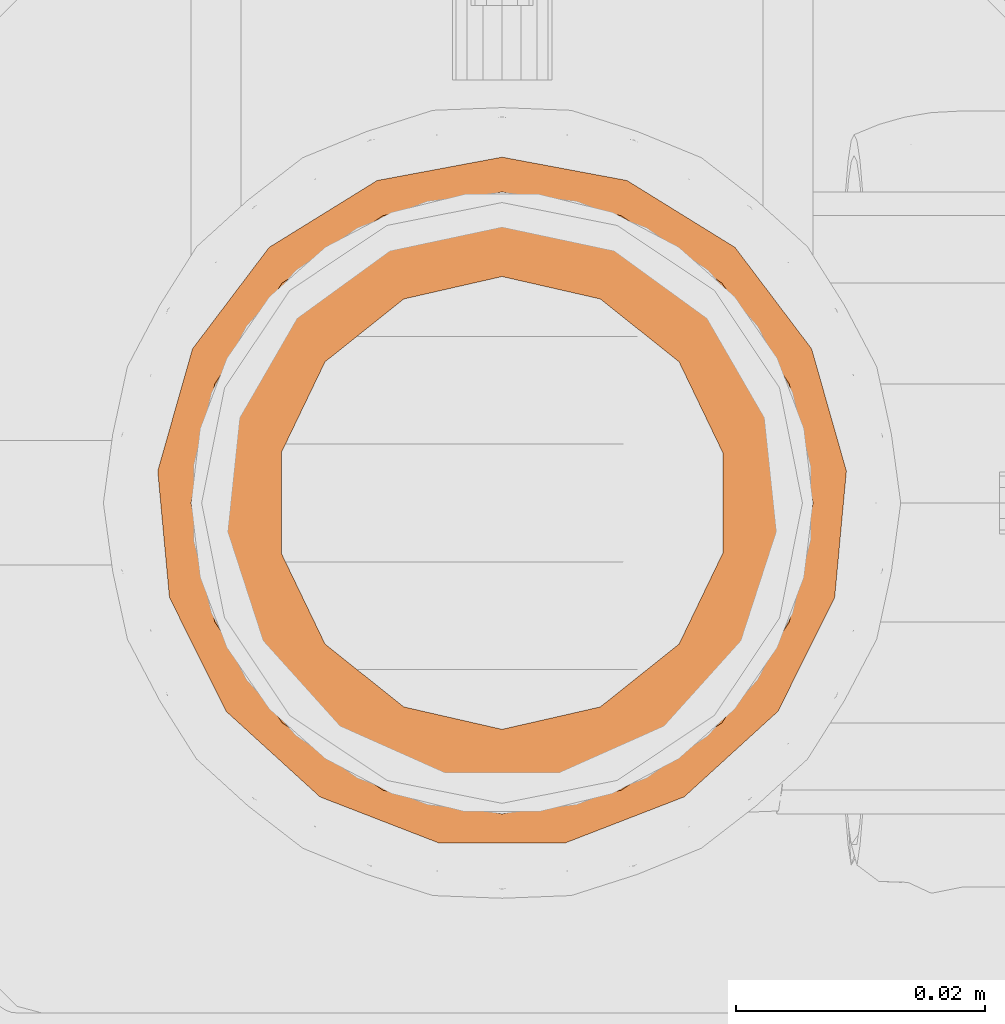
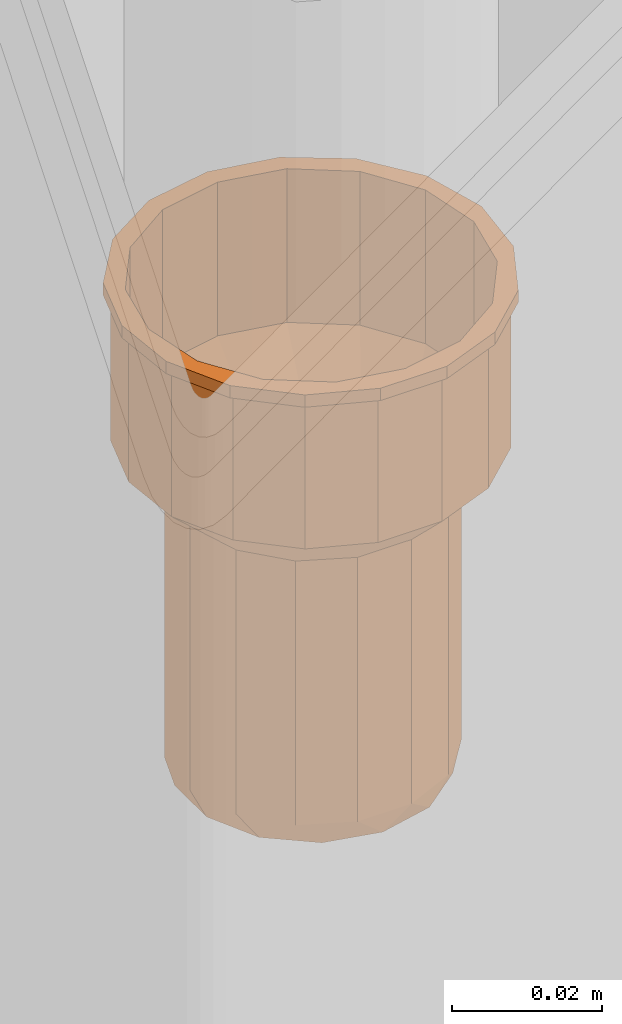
# One storey, part 89 of 162: 1 proxy.
"""IFC2X3 building model written with IfcOpenShell, lengths in millimetres."""

import ifcopenshell
import ifcopenshell.guid

model = None  # the IFC model being written
_history = None  # IfcOwnerHistory: only IFC2X3 demands one
_inside = {}  # id of a spatial element -> (the spatial element, [elements in it])
_under = {}  # id of a project, library or spatial element -> (it, [spatial elements below it])
_declared = {}  # id of a project -> (the project, [libraries it declares])
_typed = {}  # id of a type object -> (the type object, [elements of that type])
_made_of = {}  # id of a material, layer set ... -> (it, [elements and type objects made of it])


def new_model(schema):
    """Start an empty IFC model of exactly this schema.

    Asked for "IFC4X3", IfcOpenShell would pick the latest addendum, in which some entities
    have other attributes; the version numbers below select the first issue.
    IFC2X3 requires an IfcOwnerHistory on every rooted entity: one is made here for all.
    """
    global model, _history
    if schema == "IFC4X3":
        model = ifcopenshell.file(schema_version=(4, 3, 0, 0))
    else:
        model = ifcopenshell.file(schema=schema)
    _inside.clear()
    _under.clear()
    _declared.clear()
    _typed.clear()
    _made_of.clear()
    _history = None
    if model.schema == "IFC2X3":
        org = make("IfcOrganization", Name="unknown")
        user = make(
            "IfcPersonAndOrganization",
            ThePerson=make("IfcPerson", FamilyName="unknown"),
            TheOrganization=org,
        )
        app = make(
            "IfcApplication",
            ApplicationDeveloper=org,
            Version="unknown",
            ApplicationFullName="unknown",
            ApplicationIdentifier="unknown",
        )
        _history = make(
            "IfcOwnerHistory",
            OwningUser=user,
            OwningApplication=app,
            ChangeAction="ADDED",
            CreationDate=0,
        )
    return model


def make(cls, **values):
    """One entity of the class cls with the attributes given. An attribute that is None is left unset."""
    return model.create_entity(
        cls, **{name: value for name, value in values.items() if value is not None}
    )


def entity(cls, *values):
    """Any entity or typed value of the class cls, its attributes in the order of the schema. None: left unset."""
    e = model.create_entity(cls)
    for i, value in enumerate(values):
        if value is not None:
            e[i] = value
    return e


def rooted(cls, **values):
    """An entity with a GlobalId (a new one), such as an element, a storey or a relation."""
    return make(cls, GlobalId=ifcopenshell.guid.new(), OwnerHistory=_history, **values)


def si_unit(unit_type, name, prefix=None):
    """IfcSIUnit, for example si_unit("LENGTHUNIT", "METRE", prefix="MILLI")."""
    return make("IfcSIUnit", UnitType=unit_type, Prefix=prefix, Name=name)


def converted_unit(unit_type, name, factor, base, dimensions=None, offset=None):
    """IfcConversionBasedUnit, such as the inch: factor (a typed value) times the base unit."""
    return make(
        "IfcConversionBasedUnit"
        if offset is None
        else "IfcConversionBasedUnitWithOffset",
        ConversionOffset=offset,
        Dimensions=None
        if dimensions is None
        else entity("IfcDimensionalExponents", *dimensions),
        UnitType=unit_type,
        Name=name,
        ConversionFactor=make(
            "IfcMeasureWithUnit", ValueComponent=factor, UnitComponent=base
        ),
    )


def assignment(units):
    """IfcUnitAssignment: the units of a project."""
    return None if units is None else make("IfcUnitAssignment", Units=units)


def point(xyz):
    """IfcCartesianPoint."""
    return None if xyz is None else make("IfcCartesianPoint", Coordinates=xyz)


def direction(xyz):
    """IfcDirection."""
    return None if xyz is None else make("IfcDirection", DirectionRatios=xyz)


def frame(location, z_axis=None, x_axis=None):
    """IfcAxis2Placement3D, a coordinate frame: its origin and axes. An axis left out is left unset."""
    return make(
        "IfcAxis2Placement3D",
        Location=point(location),
        Axis=direction(z_axis),
        RefDirection=direction(x_axis),
    )


def origin_with_axes():
    """The frame at (0, 0, 0) with the z axis (0, 0, 1) and the x axis (1, 0, 0) written out."""
    return frame((0.0, 0.0, 0.0), z_axis=(0.0, 0.0, 1.0), x_axis=(1.0, 0.0, 0.0))


def place(relative_to, where):
    """IfcLocalPlacement: puts the frame where relative to a parent placement (None: the world)."""
    return make(
        "IfcLocalPlacement", PlacementRelTo=relative_to, RelativePlacement=where
    )


def context(
    kind, dimensions, precision=None, world=None, true_north=None, identifier=None
):
    """IfcGeometricRepresentationContext, for example the 3D "Model" context."""
    return make(
        "IfcGeometricRepresentationContext",
        ContextIdentifier=identifier,
        ContextType=kind,
        CoordinateSpaceDimension=dimensions,
        Precision=precision,
        WorldCoordinateSystem=world,
        TrueNorth=true_north,
    )


def project(units=None, contexts=None):
    """IfcProject with its units and contexts."""
    return rooted(
        "IfcProject",
        Name="project",
        RepresentationContexts=contexts,
        UnitsInContext=assignment(units),
    )


def spatial(cls, under=None, at=None, **own):
    """A site, building, storey or space (cls), placed at a placement, below another one or the project."""
    s = rooted(cls, ObjectPlacement=at, **own)
    if under is not None:
        _under.setdefault(under.id(), (under, []))[1].append(s)
    return s


def faces_of(points, faces, orient=None, outer=None):
    """IfcFace entities. A face is a list of loops; a loop is a list of indices into points, from 0.

    orient and outer hold one flag for each loop. By default every Orientation is true, the
    first loop of a face is its IfcFaceOuterBound and the others are IfcFaceBound.
    """
    made = []
    for i, loops in enumerate(faces):
        bounds = []
        for j, loop in enumerate(loops):
            is_outer = j == 0 if outer is None else outer[i][j]
            bounds.append(
                make(
                    "IfcFaceOuterBound" if is_outer else "IfcFaceBound",
                    Bound=make("IfcPolyLoop", Polygon=[points[k] for k in loop]),
                    Orientation=True if orient is None else orient[i][j],
                )
            )
        made.append(make("IfcFace", Bounds=bounds))
    return made


def faceted_brep(points, faces, orient=None, outer=None, voids=None):
    """IfcFacetedBrep: a solid bounded by flat faces; with voids (closed shells), ...WithVoids."""
    shared = [point(p) for p in points]
    hull = make("IfcClosedShell", CfsFaces=faces_of(shared, faces, orient, outer))
    if voids is None:
        return make("IfcFacetedBrep", Outer=hull)
    return make(
        "IfcFacetedBrepWithVoids",
        Outer=hull,
        Voids=[
            make(cls, CfsFaces=faces_of(shared, fs, o, b)) for cls, fs, o, b in voids
        ],
    )


def shape(context_of_items, identifier, shape_type, items):
    """IfcShapeRepresentation: the items that make up one representation, for example the "Body"."""
    return make(
        "IfcShapeRepresentation",
        ContextOfItems=context_of_items,
        RepresentationIdentifier=identifier,
        RepresentationType=shape_type,
        Items=items,
    )


def material(Name=None, Category=None):
    """IfcMaterial."""
    return make("IfcMaterial", Name=Name, Category=Category)


def made_of(thing, what):
    """Note that an element or type object is made of a material, layer set ...; save() writes the relation."""
    if what is not None:
        _made_of.setdefault(what.id(), (what, []))[1].append(thing)
    return thing


def element(
    cls,
    number,
    at=None,
    inside=None,
    cuts=None,
    type_object=None,
    material=None,
    context=None,
    identifier="Body",
    shape_type=None,
    held_by="IfcProductDefinitionShape",
    body=None,
    shapes=None,
    **own,
):
    """One element of the class cls, such as IfcWall. Its Tag is "e" and its number.

    at: its placement. inside: the storey or other place that contains it. cuts: it is an
    opening in that element (IfcRelVoidsElement). A single representation is given by context,
    identifier, shape_type and body (its items); several are given by shapes. held_by: the class
    of the entity that holds the representations. save() writes the other relations.
    """
    e = rooted(cls, Tag="e%d" % number, ObjectPlacement=at, **own)
    if body is not None:
        shapes = [shape(context, identifier, shape_type, body)]
    if shapes is not None:
        e.Representation = make(held_by, Representations=shapes)
    if inside is not None:
        _inside.setdefault(inside.id(), (inside, []))[1].append(e)
    if cuts is not None:
        rooted(
            "IfcRelVoidsElement", RelatingBuildingElement=cuts, RelatedOpeningElement=e
        )
    if type_object is not None:
        _typed.setdefault(type_object.id(), (type_object, []))[1].append(e)
    return made_of(e, material)


def aggregate(whole, parts):
    """IfcRelAggregates: a whole, such as a stair, and the parts it consists of."""
    return rooted("IfcRelAggregates", RelatingObject=whole, RelatedObjects=parts)


def save(model, path):
    """Write the relations noted so far, then the file.

    IfcRelAggregates (storeys below a building ...), IfcRelContainedInSpatialStructure (elements
    in a storey), IfcRelDefinesByType, IfcRelAssociatesMaterial and IfcRelDeclares: one each for
    every whole, place, type object, material and project.
    """
    for whole, parts in _under.values():
        aggregate(whole, parts)
    for where, things in _inside.values():
        rooted(
            "IfcRelContainedInSpatialStructure",
            RelatedElements=things,
            RelatingStructure=where,
        )
    for kind, things in _typed.values():
        rooted("IfcRelDefinesByType", RelatedObjects=things, RelatingType=kind)
    for what, things in _made_of.values():
        rooted("IfcRelAssociatesMaterial", RelatedObjects=things, RelatingMaterial=what)
    for by, libraries in _declared.values():
        rooted("IfcRelDeclares", RelatingContext=by, RelatedDefinitions=libraries)
    model.write(path)


model = new_model("IFC2X3")

# Units and contexts
model_context = context("Model", 3, precision=1e-09, world=origin_with_axes())
ifc_project = project(units=[si_unit("LENGTHUNIT", "METRE", prefix="MILLI"), si_unit("AREAUNIT", "SQUARE_METRE"), si_unit("VOLUMEUNIT", "CUBIC_METRE"), converted_unit("PLANEANGLEUNIT", "DEGREE", entity("IfcPlaneAngleMeasure", 0.01745329), si_unit("PLANEANGLEUNIT", "RADIAN"), dimensions=[0, 0, 0, 0, 0, 0, 0])], contexts=[model_context])

# Site, building, storey
site_placement = place(None, origin_with_axes())
site = spatial("IfcSite", under=ifc_project, at=site_placement, Name="Hermannstra?e 1a, 60318 Frankfurt", CompositionType="ELEMENT")
building_placement = place(site_placement, origin_with_axes())
building = spatial("IfcBuilding", under=site, at=building_placement, Name="Struktur 1", CompositionType="ELEMENT")
storey_placement = place(building_placement, origin_with_axes())
storey = spatial("IfcBuildingStorey", under=building, at=storey_placement, Name="Default Storey", CompositionType="ELEMENT", Elevation=0.0)

# Proxy
ifc_material = material(Name="Kunststoff")
proxy_placement = place(None, origin_with_axes())
element("IfcBuildingElementProxy", 1, at=proxy_placement, inside=storey, material=ifc_material, ObjectType="-", context=model_context, shape_type="Brep", body=[
    faceted_brep([(5465.038594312, 1547.783805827, 3752.545584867), (5458.446464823, 1543.991989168, 3756.045584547), (5465.17463005, 1548.88028734, 3756.045584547), (5458.405951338, 1542.494449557, 3752.545584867), (5458.446472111, 1543.991982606, 3799.000001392), (5465.174634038, 1548.880278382, 3799.000001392), (5473.30936482, 1549.671555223, 3752.545584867), (5481.580135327, 1547.783805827, 3752.545584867), (5488.212778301, 1542.494449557, 3752.545584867), (5491.893617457, 1534.851108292, 3752.545584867), (5491.893617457, 1526.36763951, 3752.545584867), (5488.212778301, 1518.724298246, 3752.545584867), (5481.580135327, 1513.434941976, 3752.545584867), (5473.30936482, 1511.54719258, 3752.545584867), (5465.038594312, 1513.434941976, 3752.545584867), (5458.405951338, 1518.724298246, 3752.545584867), (5454.725112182, 1526.36763951, 3752.545584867), (5454.725112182, 1534.851108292, 3752.545584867), (5473.30936482, 1548.809369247, 3752.545585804), (5465.412682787, 1547.007003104, 3752.545585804), (5459.080035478, 1541.956885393, 3752.545585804), (5455.565681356, 1534.659253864, 3752.545585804), (5455.565681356, 1526.559493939, 3752.545585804), (5459.080035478, 1519.26186241, 3752.545585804), (5465.412682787, 1514.211744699, 3752.545585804), (5473.30936482, 1512.409378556, 3752.545585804), (5481.206046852, 1514.211744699, 3752.545585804), (5487.538694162, 1519.26186241, 3752.545585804), (5491.053048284, 1526.559493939, 3752.545585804), (5491.053048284, 1534.659253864, 3752.545585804), (5487.538694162, 1541.956885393, 3752.545585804), (5481.206046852, 1547.007003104, 3752.545585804), (5454.288230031, 1536.789715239, 3756.045584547), (5465.412682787, 1547.007003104, 3799.745585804), (5459.080035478, 1541.956885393, 3799.745585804), (5473.30936482, 1550.609368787, 3799.000001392), (5473.30936482, 1550.609378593, 3756.045584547), (5455.254318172, 1550.41481661, 3805.799996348), (5463.628086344, 1555.599634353, 3805.799996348), (5473.30936482, 1548.809369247, 3799.745585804), (5463.742277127, 1553.706366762, 3806.545580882), (5454.288239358, 1536.789712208, 3799.000001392), (5455.25432157, 1550.414812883, 3829.545585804), (5463.628088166, 1555.599629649, 3829.545585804), (5455.631691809, 1548.287046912, 3806.545580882), (5463.742277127, 1553.706366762, 3831.545585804), (5473.30936482, 1555.609378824, 3806.545580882), (5473.30936482, 1555.609378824, 3831.545585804), (5453.418922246, 1528.518804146, 3756.045584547), (5473.30936482, 1557.409373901, 3829.545585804), (5473.30936482, 1557.409378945, 3805.799996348), (5473.30936482, 1558.409366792, 3829.545585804), (5483.351880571, 1556.53209525, 3829.545585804), (5492.038098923, 1551.153816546, 3829.545585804), (5498.194897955, 1543.000897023, 3829.545585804), (5500.990767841, 1533.174433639, 3829.545585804), (5500.048110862, 1523.001544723, 3829.545585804), (5495.494238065, 1513.856135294, 3829.545585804), (5487.944175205, 1506.973343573, 3829.545585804), (5478.417600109, 1503.282728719, 3829.545585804), (5468.201129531, 1503.282728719, 3829.545585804), (5458.674554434, 1506.973343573, 3829.545585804), (5451.124491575, 1513.856135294, 3829.545585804), (5446.570618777, 1523.001544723, 3829.545585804), (5445.627961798, 1533.174433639, 3829.545585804), (5448.423831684, 1543.000897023, 3829.545585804), (5454.580630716, 1551.153816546, 3829.545585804), (5463.266849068, 1556.53209525, 3829.545585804), (5482.990641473, 1555.599629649, 3829.545585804), (5449.318988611, 1542.555161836, 3829.545585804), (5446.623688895, 1533.082165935, 3829.545585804), (5447.532437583, 1523.275205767, 3829.545585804), (5451.922503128, 1514.458765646, 3829.545585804), (5459.200982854, 1507.823554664, 3829.545585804), (5468.384877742, 1504.26569483, 3829.545585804), (5478.233851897, 1504.26569483, 3829.545585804), (5487.417746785, 1507.823554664, 3829.545585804), (5494.696226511, 1514.458765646, 3829.545585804), (5499.086292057, 1523.275205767, 3829.545585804), (5499.995040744, 1533.082165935, 3829.545585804), (5497.299741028, 1542.555161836, 3829.545585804), (5491.364408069, 1550.414812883, 3829.545585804), (5481.444099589, 1548.88028734, 3756.045584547), (5492.038098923, 1551.153816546, 3831.545585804), (5483.351880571, 1556.53209525, 3831.545585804), (5473.30936482, 1558.409366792, 3831.545585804), (5463.266849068, 1556.53209525, 3831.545585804), (5454.580630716, 1551.153816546, 3831.545585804), (5448.423831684, 1543.000897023, 3831.545585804), (5445.627961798, 1533.174433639, 3831.545585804), (5446.570618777, 1523.001544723, 3831.545585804), (5451.124491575, 1513.856135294, 3831.545585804), (5458.674554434, 1506.973343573, 3831.545585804), (5468.201129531, 1503.282728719, 3831.545585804), (5478.417600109, 1503.282728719, 3831.545585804), (5487.944175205, 1506.973343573, 3831.545585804), (5495.494238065, 1513.856135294, 3831.545585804), (5500.048110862, 1523.001544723, 3831.545585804), (5500.990767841, 1533.174433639, 3831.545585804), (5498.194897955, 1543.000897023, 3831.545585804), (5482.876452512, 1553.706366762, 3831.545585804), (5490.98703783, 1548.287046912, 3831.545585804), (5496.40635768, 1540.176461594, 3831.545585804), (5498.309369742, 1530.609373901, 3831.545585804), (5496.40635768, 1521.042286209, 3831.545585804), (5490.98703783, 1512.931700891, 3831.545585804), (5482.876452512, 1507.512381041, 3831.545585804), (5473.30936482, 1505.609368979, 3831.545585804), (5463.742277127, 1507.512381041, 3831.545585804), (5455.631691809, 1512.931700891, 3831.545585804), (5450.212371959, 1521.042286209, 3831.545585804), (5448.309359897, 1530.609373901, 3831.545585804), (5450.212371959, 1540.176461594, 3831.545585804), (5455.631691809, 1548.287046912, 3831.545585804), (5449.318984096, 1542.555164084, 3805.799996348), (5455.565681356, 1534.659253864, 3799.745585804), (5453.418931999, 1528.518805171, 3799.000001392), (5481.444095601, 1548.880278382, 3799.000001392), (5481.206046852, 1547.007003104, 3799.745585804), (5482.876452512, 1553.706366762, 3806.545580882), (5450.212371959, 1540.176461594, 3806.545580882), (5455.988852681, 1520.609371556, 3756.045584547), (5482.990643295, 1555.599634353, 3805.799996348), (5488.172264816, 1543.991989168, 3756.045584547), (5446.623683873, 1533.0821664, 3805.799996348), (5455.565681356, 1526.559493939, 3799.745585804), (5455.988861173, 1520.609376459, 3799.000001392), (5488.172257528, 1543.991982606, 3799.000001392), (5487.538694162, 1541.956885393, 3799.745585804), (5490.98703783, 1548.287046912, 3806.545580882), (5448.309359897, 1530.609373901, 3806.545580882), (5461.553657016, 1514.429030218, 3756.045584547), (5447.532432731, 1523.275204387, 3805.799996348), (5492.330499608, 1536.789715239, 3756.045584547), (5491.364411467, 1550.41481661, 3805.799996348), (5492.330490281, 1536.789712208, 3799.000001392), (5459.080035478, 1519.26186241, 3799.745585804), (5461.55366278, 1514.429038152, 3799.000001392), (5497.299745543, 1542.555164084, 3805.799996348), (5491.053048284, 1534.659253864, 3799.745585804), (5496.40635768, 1540.176461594, 3806.545580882), (5450.212371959, 1521.042286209, 3806.545580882), (5469.151130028, 1511.046417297, 3756.045584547), (5451.922499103, 1514.458762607, 3805.799996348), (5493.199807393, 1528.518804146, 3756.045584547), (5493.19979764, 1528.518805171, 3799.000001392), (5499.995045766, 1533.0821664, 3805.799996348), (5465.412682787, 1514.211744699, 3799.745585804), (5469.151132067, 1511.04642689, 3799.000001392), (5477.467599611, 1511.046417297, 3756.045584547), (5485.065072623, 1514.429030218, 3756.045584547), (5490.629876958, 1520.609371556, 3756.045584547), (5491.053048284, 1526.559493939, 3799.745585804), (5498.309369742, 1530.609373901, 3806.545580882), (5455.631691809, 1512.931700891, 3806.545580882), (5459.200980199, 1507.823550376, 3805.799996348), (5490.629868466, 1520.609376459, 3799.000001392), (5499.086296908, 1523.275204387, 3805.799996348), (5487.538694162, 1519.26186241, 3799.745585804), (5481.206046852, 1514.211744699, 3799.745585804), (5473.30936482, 1512.409378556, 3799.745585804), (5477.467597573, 1511.04642689, 3799.000001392), (5485.065066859, 1514.429038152, 3799.000001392), (5496.40635768, 1521.042286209, 3806.545580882), (5463.742277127, 1507.512381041, 3806.545580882), (5468.384876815, 1504.265689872, 3805.799996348), (5494.696230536, 1514.458762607, 3805.799996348), (5490.98703783, 1512.931700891, 3806.545580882), (5482.876452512, 1507.512381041, 3806.545580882), (5478.233852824, 1504.265689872, 3805.799996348), (5487.41774944, 1507.823550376, 3805.799996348), (5473.30936482, 1505.609368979, 3806.545580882)], [[[0, 1, 2]], [[0, 3, 1]], [[2, 1, 4, 5]], [[2, 6, 0]], [[0, 6, 7, 8, 9, 10, 11, 12, 13, 14, 15, 16, 17, 3], [18, 19, 20, 21, 22, 23, 24, 25, 26, 27, 28, 29, 30, 31]], [[3, 32, 1]], [[19, 33, 34, 20]], [[2, 5, 35, 36]], [[5, 37, 38]], [[2, 36, 6]], [[33, 19, 18, 39]], [[40, 33, 39]], [[1, 32, 41, 4]], [[5, 4, 37]], [[38, 37, 42, 43]], [[3, 17, 32]], [[40, 44, 33]], [[45, 40, 46, 47]], [[17, 48, 32]], [[38, 35, 5]], [[43, 49, 50, 38]], [[51, 52, 53, 54, 55, 56, 57, 58, 59, 60, 61, 62, 63, 64, 65, 66, 67], [68, 49, 43, 42, 69, 70, 71, 72, 73, 74, 75, 76, 77, 78, 79, 80, 81]], [[36, 82, 6]], [[46, 40, 39]], [[83, 84, 85, 86, 87, 88, 89, 90, 91, 92, 93, 94, 95, 96, 97, 98, 99], [47, 100, 101, 102, 103, 104, 105, 106, 107, 108, 109, 110, 111, 112, 113, 45]], [[4, 114, 37]], [[86, 85, 51, 67]], [[20, 34, 115, 21]], [[44, 34, 33]], [[40, 45, 113, 44]], [[17, 16, 48]], [[32, 48, 116, 41]], [[36, 35, 117, 82]], [[38, 50, 35]], [[7, 6, 82]], [[39, 18, 31, 118]], [[46, 39, 119]], [[47, 46, 119, 100]], [[4, 41, 114]], [[37, 114, 69, 42]], [[67, 66, 87, 86]], [[44, 120, 34]], [[16, 121, 48]], [[50, 122, 35]], [[49, 68, 122, 50]], [[85, 84, 52, 51]], [[7, 82, 123]], [[119, 39, 118]], [[41, 124, 114]], [[21, 115, 125, 22]], [[120, 115, 34]], [[44, 113, 112, 120]], [[16, 15, 121]], [[48, 121, 126, 116]], [[41, 116, 124]], [[117, 127, 123, 82]], [[117, 35, 122]], [[8, 7, 123]], [[118, 31, 30, 128]], [[129, 119, 118]], [[100, 119, 129, 101]], [[114, 124, 70, 69]], [[66, 65, 88, 87]], [[120, 130, 115]], [[15, 131, 121]], [[116, 132, 124]], [[8, 123, 133]], [[127, 117, 134]], [[127, 135, 133, 123]], [[117, 122, 134]], [[68, 81, 134, 122]], [[84, 83, 53, 52]], [[129, 118, 128]], [[22, 125, 136, 23]], [[130, 125, 115]], [[120, 112, 111, 130]], [[15, 14, 131]], [[121, 131, 137, 126]], [[116, 126, 132]], [[124, 132, 71, 70]], [[9, 8, 133]], [[127, 134, 138]], [[135, 127, 138]], [[128, 30, 29, 139]], [[140, 129, 128]], [[101, 129, 140, 102]], [[65, 64, 89, 88]], [[130, 141, 125]], [[14, 142, 131]], [[126, 143, 132]], [[9, 133, 144]], [[135, 145, 144, 133]], [[138, 134, 81, 80]], [[135, 138, 146]], [[83, 99, 54, 53]], [[140, 128, 139]], [[23, 136, 147, 24]], [[141, 136, 125]], [[130, 111, 110, 141]], [[14, 13, 142]], [[131, 142, 148, 137]], [[126, 137, 143]], [[132, 143, 72, 71]], [[13, 12, 149]], [[12, 11, 150]], [[11, 10, 151]], [[10, 9, 144]], [[145, 135, 146]], [[80, 79, 146, 138]], [[139, 29, 28, 152]], [[153, 140, 139]], [[102, 140, 153, 103]], [[64, 63, 90, 89]], [[141, 154, 136]], [[13, 149, 142]], [[137, 155, 143]], [[12, 150, 149]], [[11, 151, 150]], [[10, 144, 151]], [[145, 156, 151, 144]], [[145, 146, 157]], [[79, 78, 157, 146]], [[99, 98, 55, 54]], [[153, 139, 152]], [[27, 158, 152, 28]], [[26, 159, 158, 27]], [[25, 160, 159, 26]], [[24, 147, 160, 25]], [[154, 147, 136]], [[141, 110, 109, 154]], [[142, 149, 161, 148]], [[137, 148, 155]], [[143, 155, 73, 72]], [[149, 150, 162, 161]], [[150, 151, 156, 162]], [[156, 145, 157]], [[163, 153, 152]], [[103, 153, 163, 104]], [[63, 62, 91, 90]], [[154, 164, 147]], [[148, 165, 155]], [[156, 157, 166]], [[78, 77, 166, 157]], [[98, 97, 56, 55]], [[163, 152, 158]], [[167, 158, 159]], [[168, 159, 160]], [[164, 160, 147]], [[154, 109, 108, 164]], [[148, 161, 169, 165]], [[155, 165, 74, 73]], [[161, 162, 170]], [[162, 156, 166]], [[167, 163, 158]], [[104, 163, 167, 105]], [[62, 61, 92, 91]], [[168, 167, 159]], [[171, 168, 160]], [[164, 171, 160]], [[161, 170, 169]], [[162, 166, 170]], [[77, 76, 170, 166]], [[97, 96, 57, 56]], [[168, 106, 105, 167]], [[171, 107, 106, 168]], [[164, 108, 107, 171]], [[165, 169, 75, 74]], [[169, 170, 76, 75]], [[61, 60, 93, 92]], [[96, 95, 58, 57]], [[60, 59, 94, 93]], [[95, 94, 59, 58]]]),
])

save(model, "model.ifc")
